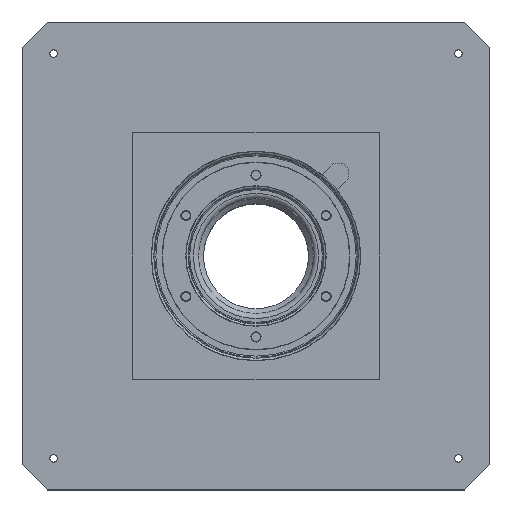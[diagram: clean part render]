
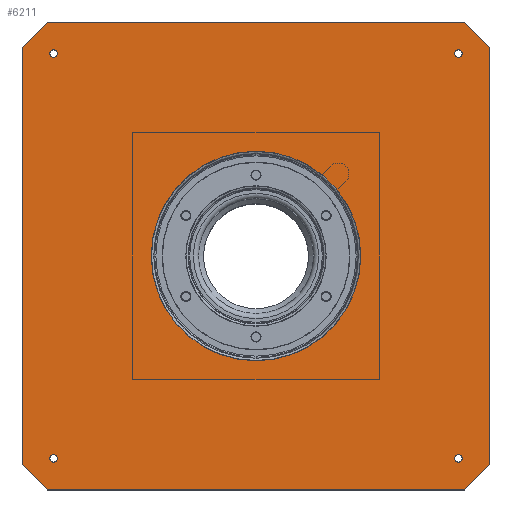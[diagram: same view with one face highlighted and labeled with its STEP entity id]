
A CAD part, top view. The second image highlights one B-rep face of the part: STEP entity #6211.
In plain terms, the highlighted planar face has unit normal (0, 0, 1).
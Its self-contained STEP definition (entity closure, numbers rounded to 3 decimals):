
#535=LINE('',#10621,#857);
#537=LINE('',#10625,#859);
#540=LINE('',#10635,#862);
#541=LINE('',#10637,#863);
#542=LINE('',#10639,#864);
#543=LINE('',#10641,#865);
#544=LINE('',#10643,#866);
#545=LINE('',#10644,#867);
#857=VECTOR('',#8883,28.284);
#859=VECTOR('',#8887,330.);
#862=VECTOR('',#8896,330.);
#863=VECTOR('',#8897,28.284);
#864=VECTOR('',#8898,330.);
#865=VECTOR('',#8899,28.284);
#866=VECTOR('',#8900,330.);
#867=VECTOR('',#8901,28.284);
#1002=PLANE('',#7010);
#1200=FACE_BOUND('',#2075,.T.);
#1201=FACE_BOUND('',#2076,.T.);
#1202=FACE_BOUND('',#2077,.T.);
#1203=FACE_BOUND('',#2078,.T.);
#1204=FACE_BOUND('',#2079,.T.);
#1205=FACE_BOUND('',#2080,.T.);
#2075=EDGE_LOOP('',(#5396));
#2076=EDGE_LOOP('',(#5397));
#2077=EDGE_LOOP('',(#5398,#5399,#5400,#5401,#5402,#5403,#5404,#5405));
#2078=EDGE_LOOP('',(#5406));
#2079=EDGE_LOOP('',(#5407));
#2080=EDGE_LOOP('',(#5408));
#2572=CIRCLE('',#7011,3.);
#2573=CIRCLE('',#7012,3.);
#2574=CIRCLE('',#7013,3.);
#2575=CIRCLE('',#7014,3.);
#2576=CIRCLE('',#7015,82.824);
#3127=VERTEX_POINT('',#10618);
#3128=VERTEX_POINT('',#10620);
#3129=VERTEX_POINT('',#10624);
#3131=VERTEX_POINT('',#10630);
#3132=VERTEX_POINT('',#10632);
#3133=VERTEX_POINT('',#10634);
#3134=VERTEX_POINT('',#10636);
#3135=VERTEX_POINT('',#10638);
#3136=VERTEX_POINT('',#10640);
#3137=VERTEX_POINT('',#10642);
#3138=VERTEX_POINT('',#10645);
#3139=VERTEX_POINT('',#10647);
#3140=VERTEX_POINT('',#10649);
#3896=EDGE_CURVE('',#3127,#3128,#535,.T.);
#3898=EDGE_CURVE('',#3129,#3128,#537,.T.);
#3901=EDGE_CURVE('',#3131,#3131,#2572,.T.);
#3902=EDGE_CURVE('',#3132,#3132,#2573,.T.);
#3903=EDGE_CURVE('',#3127,#3133,#540,.T.);
#3904=EDGE_CURVE('',#3134,#3133,#541,.T.);
#3905=EDGE_CURVE('',#3134,#3135,#542,.T.);
#3906=EDGE_CURVE('',#3136,#3135,#543,.T.);
#3907=EDGE_CURVE('',#3136,#3137,#544,.T.);
#3908=EDGE_CURVE('',#3129,#3137,#545,.T.);
#3909=EDGE_CURVE('',#3138,#3138,#2574,.T.);
#3910=EDGE_CURVE('',#3139,#3139,#2575,.T.);
#3911=EDGE_CURVE('',#3140,#3140,#2576,.T.);
#5396=ORIENTED_EDGE('',*,*,#3901,.T.);
#5397=ORIENTED_EDGE('',*,*,#3902,.T.);
#5398=ORIENTED_EDGE('',*,*,#3896,.F.);
#5399=ORIENTED_EDGE('',*,*,#3903,.T.);
#5400=ORIENTED_EDGE('',*,*,#3904,.F.);
#5401=ORIENTED_EDGE('',*,*,#3905,.T.);
#5402=ORIENTED_EDGE('',*,*,#3906,.F.);
#5403=ORIENTED_EDGE('',*,*,#3907,.T.);
#5404=ORIENTED_EDGE('',*,*,#3908,.F.);
#5405=ORIENTED_EDGE('',*,*,#3898,.T.);
#5406=ORIENTED_EDGE('',*,*,#3909,.T.);
#5407=ORIENTED_EDGE('',*,*,#3910,.T.);
#5408=ORIENTED_EDGE('',*,*,#3911,.T.);
#6211=ADVANCED_FACE('',(#1200,#1201,#1202,#1203,#1204,#1205),#1002,.T.);
#7010=AXIS2_PLACEMENT_3D('',#10629,#8890,#8891);
#7011=AXIS2_PLACEMENT_3D('',#10631,#8892,#8893);
#7012=AXIS2_PLACEMENT_3D('',#10633,#8894,#8895);
#7013=AXIS2_PLACEMENT_3D('',#10646,#8902,#8903);
#7014=AXIS2_PLACEMENT_3D('',#10648,#8904,#8905);
#7015=AXIS2_PLACEMENT_3D('',#10650,#8906,#8907);
#8883=DIRECTION('',(-0.707,0.707,0.));
#8887=DIRECTION('',(0.,-1.,0.));
#8890=DIRECTION('center_axis',(0.,0.,
1.));
#8891=DIRECTION('ref_axis',(0.,-1.,0.));
#8892=DIRECTION('center_axis',(0.,0.,
-1.));
#8893=DIRECTION('ref_axis',(0.,1.,0.));
#8894=DIRECTION('center_axis',(0.,0.,
-1.));
#8895=DIRECTION('ref_axis',(0.,1.,0.));
#8896=DIRECTION('',(1.,0.,0.));
#8897=DIRECTION('',(-0.707,-0.707,0.));
#8898=DIRECTION('',(0.,1.,0.));
#8899=DIRECTION('',(0.707,-0.707,0.));
#8900=DIRECTION('',(-1.,0.,0.));
#8901=DIRECTION('',(0.707,0.707,0.));
#8902=DIRECTION('center_axis',(0.,0.,
-1.));
#8903=DIRECTION('ref_axis',(0.,1.,0.));
#8904=DIRECTION('center_axis',(0.,0.,
-1.));
#8905=DIRECTION('ref_axis',(0.,1.,0.));
#8906=DIRECTION('center_axis',(0.,0.,
-1.));
#8907=DIRECTION('ref_axis',(0.,-1.,0.));
#10618=CARTESIAN_POINT('',(-165.,-185.,51.));
#10620=CARTESIAN_POINT('',(-185.,-165.,51.));
#10621=CARTESIAN_POINT('',(-106.25,-243.75,51.));
#10624=CARTESIAN_POINT('',(-185.,165.,51.));
#10625=CARTESIAN_POINT('',(-185.,-92.5,51.));
#10629=CARTESIAN_POINT('Origin',(275.,0.,51.));
#10630=CARTESIAN_POINT('',(160.,-163.,51.));
#10631=CARTESIAN_POINT('Origin',(160.,-160.,51.));
#10632=CARTESIAN_POINT('',(-160.,157.,51.));
#10633=CARTESIAN_POINT('Origin',(-160.,160.,51.));
#10634=CARTESIAN_POINT('',(165.,-185.,51.));
#10635=CARTESIAN_POINT('',(230.,-185.,51.));
#10636=CARTESIAN_POINT('',(185.,-165.,51.));
#10637=CARTESIAN_POINT('',(243.75,-106.25,51.));
#10638=CARTESIAN_POINT('',(185.,165.,51.));
#10639=CARTESIAN_POINT('',(185.,92.5,51.));
#10640=CARTESIAN_POINT('',(165.,185.,51.));
#10641=CARTESIAN_POINT('',(243.75,106.25,51.));
#10642=CARTESIAN_POINT('',(-165.,185.,51.));
#10643=CARTESIAN_POINT('',(45.,185.,51.));
#10644=CARTESIAN_POINT('',(-106.25,243.75,51.));
#10645=CARTESIAN_POINT('',(160.,157.,51.));
#10646=CARTESIAN_POINT('Origin',(160.,160.,51.));
#10647=CARTESIAN_POINT('',(-160.,-163.,51.));
#10648=CARTESIAN_POINT('Origin',(-160.,-160.,51.));
#10649=CARTESIAN_POINT('',(82.824,0.,51.));
#10650=CARTESIAN_POINT('Origin',(0.,0.,
51.));
